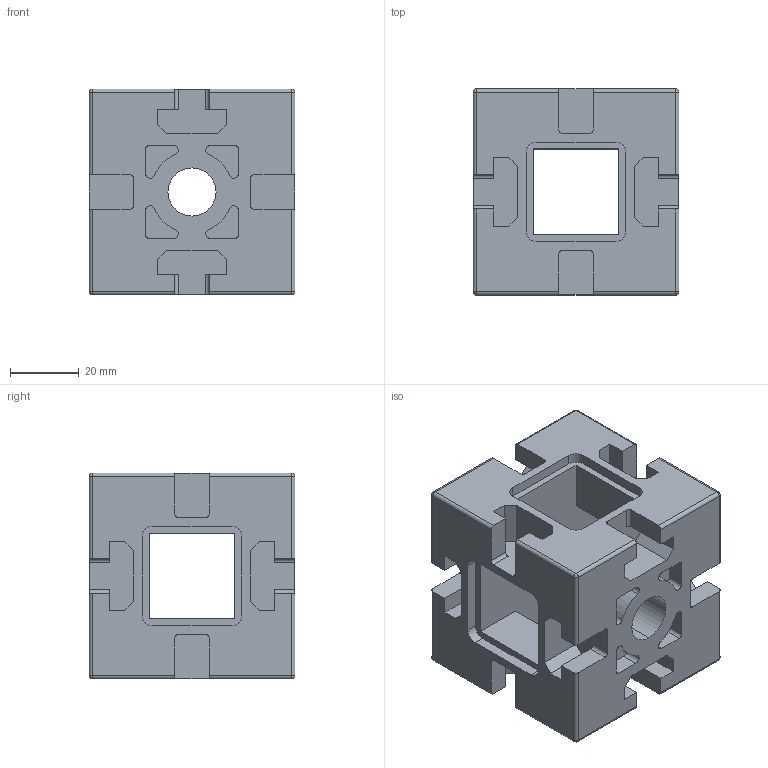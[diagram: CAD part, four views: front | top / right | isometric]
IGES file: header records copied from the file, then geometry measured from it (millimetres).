
Start section: SolidWorks IGES file using analytic representation for surfaces
Global section: file name: C:\Documents and Settings\Administrator\デスクトップ\6回目指定保存後\SolidWorks\SF\SF40・45\Bracket\SFJ-F03.IGS; native system: SolidWorks 2006 by SolidWorks Corporation; preprocessor: SolidWorks 2006 by SolidWorks Corporation; author: Administrator; date: 061219.110937; units: millimetre
Bounding box: 60 x 60 x 60 mm (x, y, z)
Volume: 116340.5 mm3; surface area: 36054.2 mm2
Topology: 1 solids, 1 shells, 297 faces, 833 edges, 540 vertices
Faces by surface type: plane 180, revolution 117
